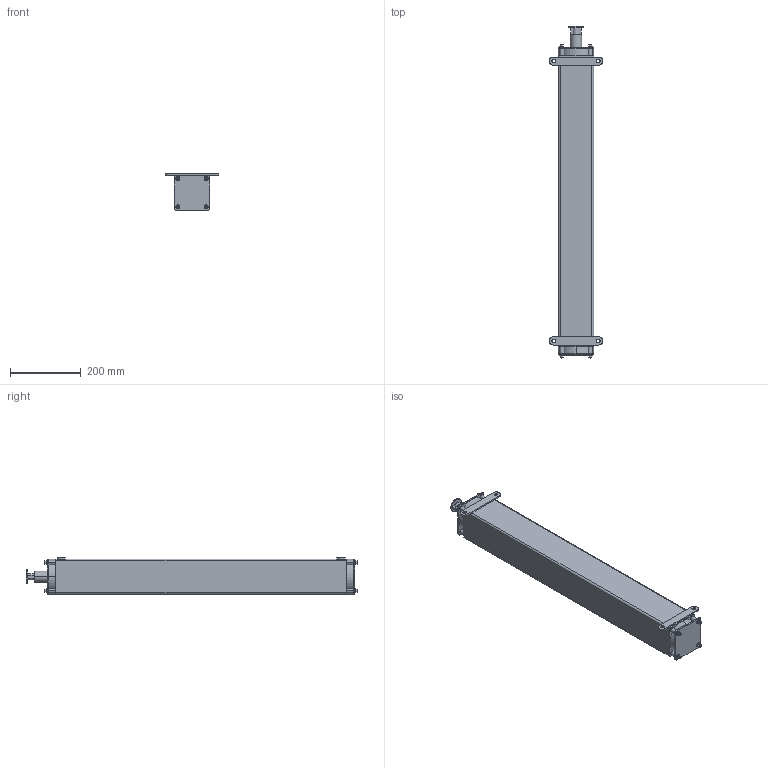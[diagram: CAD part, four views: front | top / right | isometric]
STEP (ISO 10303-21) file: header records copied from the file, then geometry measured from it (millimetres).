
FILE_DESCRIPTION((''),'2;1');
FILE_NAME('EFB-EX_ASM','2021-08-19T10:29:26',('18720616900'),(''),'CREO PARAMETRIC BY PTC INC, 2019010','CREO PARAMETRIC BY PTC INC, 2019010','');
FILE_SCHEMA(('CONFIG_CONTROL_DESIGN'));
Length unit declared in the file: millimetre
Products named in the file (6): EFB-EX-115; M6-50-0001; M6-1--00; M6-1-00; 0001_ASM; EFB-EX_ASM
Assembly tree (12 placements, depth 3):
  EFB-EX_ASM
    EFB-EX-115
    0001_ASM  x8
      M6-50-0001
      M6-1--00
      M6-1-00
Bounding box: 150 x 939.5 x 104 mm (x, y, z)
Volume: 1109440.1 mm3; surface area: 708649 mm2
Topology: 25 solids, 33 shells, 1249 faces, 3236 edges, 2074 vertices
Faces by surface type: cone 488, plane 265, bspline 264, cylinder 182, torus 50
Entity records: 19619 total; most frequent: CARTESIAN_POINT 10839, ORIENTED_EDGE 1806, DIRECTION 1744, EDGE_CURVE 919, AXIS2_PLACEMENT_3D 655, VERTEX_POINT 597, VECTOR 434, LINE 434
